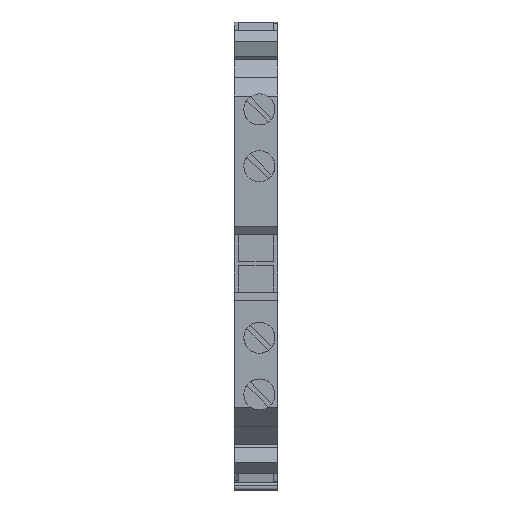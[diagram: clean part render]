
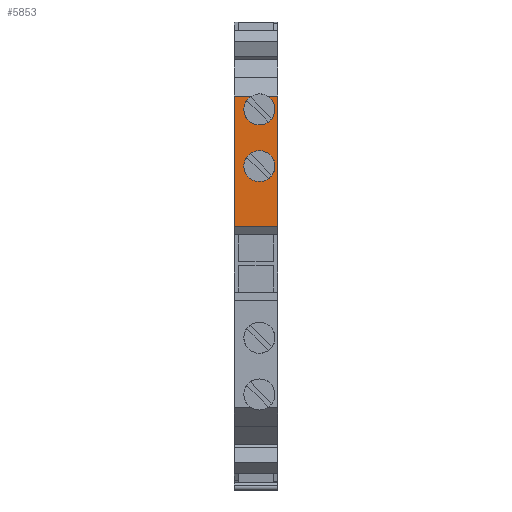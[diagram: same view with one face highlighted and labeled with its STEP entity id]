
A CAD part, top view. The second image highlights one B-rep face of the part: STEP entity #5853.
In plain terms, the highlighted planar face has unit normal (0, 0, 1).
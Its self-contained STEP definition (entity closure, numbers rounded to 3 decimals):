
#602=CARTESIAN_POINT('',(-0.,36.8,46.85));
#603=VERTEX_POINT('',#602);
#610=CARTESIAN_POINT('',(-0.,55.,46.85));
#611=VERTEX_POINT('',#610);
#612=CARTESIAN_POINT('',(-0.,36.8,46.85));
#613=DIRECTION('',(0.,1.,0.));
#614=VECTOR('',#613,18.2);
#615=LINE('',#612,#614);
#616=EDGE_CURVE('',#603,#611,#615,.T.);
#1326=CARTESIAN_POINT('',(6.15,55.,46.85));
#1327=VERTEX_POINT('',#1326);
#1334=CARTESIAN_POINT('',(6.15,36.8,46.85));
#1335=VERTEX_POINT('',#1334);
#1336=CARTESIAN_POINT('',(6.15,36.8,46.85));
#1337=DIRECTION('',(0.,1.,-0.));
#1338=VECTOR('',#1337,18.2);
#1339=LINE('',#1336,#1338);
#1340=EDGE_CURVE('',#1335,#1327,#1339,.T.);
#3652=CARTESIAN_POINT('',(6.15,36.8,46.85));
#3653=DIRECTION('',(-1.,0.,0.));
#3654=VECTOR('',#3653,6.15);
#3655=LINE('',#3652,#3654);
#3656=EDGE_CURVE('',#1335,#603,#3655,.T.);
#5531=CARTESIAN_POINT('',(2.448,55.,46.85));
#5532=VERTEX_POINT('',#5531);
#5533=CARTESIAN_POINT('',(2.448,55.,46.85));
#5534=DIRECTION('',(-1.,0.,0.));
#5535=VECTOR('',#5534,2.448);
#5536=LINE('',#5533,#5535);
#5537=EDGE_CURVE('',#5532,#611,#5536,.T.);
#5547=CARTESIAN_POINT('',(4.652,55.,46.85));
#5548=VERTEX_POINT('',#5547);
#5555=CARTESIAN_POINT('',(6.15,55.,46.85));
#5556=DIRECTION('',(-1.,0.,0.));
#5557=VECTOR('',#5556,1.498);
#5558=LINE('',#5555,#5557);
#5559=EDGE_CURVE('',#1327,#5548,#5558,.T.);
#5573=CARTESIAN_POINT('',(3.55,50.95,46.85));
#5574=VERTEX_POINT('',#5573);
#5657=CARTESIAN_POINT('',(3.55,53.125,46.85));
#5658=DIRECTION('',(-0.,0.,-1.));
#5659=DIRECTION('',(0.,1.,0.));
#5660=AXIS2_PLACEMENT_3D('',#5657,#5658,#5659);
#5661=CIRCLE('',#5660,2.175);
#5662=EDGE_CURVE('',#5548,#5574,#5661,.T.);
#5666=CARTESIAN_POINT('',(3.55,53.125,46.85));
#5667=DIRECTION('',(-0.,0.,-1.));
#5668=DIRECTION('',(0.,1.,0.));
#5669=AXIS2_PLACEMENT_3D('',#5666,#5667,#5668);
#5670=CIRCLE('',#5669,2.175);
#5671=EDGE_CURVE('',#5574,#5532,#5670,.T.);
#5819=CARTESIAN_POINT('',(-0.157,36.342,46.85));
#5820=DIRECTION('',(0.,0.,1.));
#5821=DIRECTION('',(0.,1.,-0.));
#5822=AXIS2_PLACEMENT_3D('',#5819,#5820,#5821);
#5823=PLANE('',#5822);
#5824=CARTESIAN_POINT('',(3.55,47.375,46.85));
#5825=VERTEX_POINT('',#5824);
#5826=CARTESIAN_POINT('',(3.55,43.025,46.85));
#5827=VERTEX_POINT('',#5826);
#5828=CARTESIAN_POINT('',(3.55,45.2,46.85));
#5829=DIRECTION('',(-0.,0.,-1.));
#5830=DIRECTION('',(0.,1.,0.));
#5831=AXIS2_PLACEMENT_3D('',#5828,#5829,#5830);
#5832=CIRCLE('',#5831,2.175);
#5833=EDGE_CURVE('',#5825,#5827,#5832,.T.);
#5834=ORIENTED_EDGE('',*,*,#5833,.T.);
#5835=CARTESIAN_POINT('',(3.55,45.2,46.85));
#5836=DIRECTION('',(-0.,0.,-1.));
#5837=DIRECTION('',(0.,1.,0.));
#5838=AXIS2_PLACEMENT_3D('',#5835,#5836,#5837);
#5839=CIRCLE('',#5838,2.175);
#5840=EDGE_CURVE('',#5827,#5825,#5839,.T.);
#5841=ORIENTED_EDGE('',*,*,#5840,.T.);
#5842=EDGE_LOOP('',(#5834,#5841));
#5843=FACE_BOUND('',#5842,.T.);
#5844=ORIENTED_EDGE('',*,*,#616,.F.);
#5845=ORIENTED_EDGE('',*,*,#3656,.F.);
#5846=ORIENTED_EDGE('',*,*,#1340,.T.);
#5847=ORIENTED_EDGE('',*,*,#5559,.T.);
#5848=ORIENTED_EDGE('',*,*,#5662,.T.);
#5849=ORIENTED_EDGE('',*,*,#5671,.T.);
#5850=ORIENTED_EDGE('',*,*,#5537,.T.);
#5851=EDGE_LOOP('',(#5844,#5845,#5846,#5847,#5848,#5849,#5850));
#5852=FACE_BOUND('',#5851,.T.);
#5853=ADVANCED_FACE('',(#5843,#5852),#5823,.T.);
